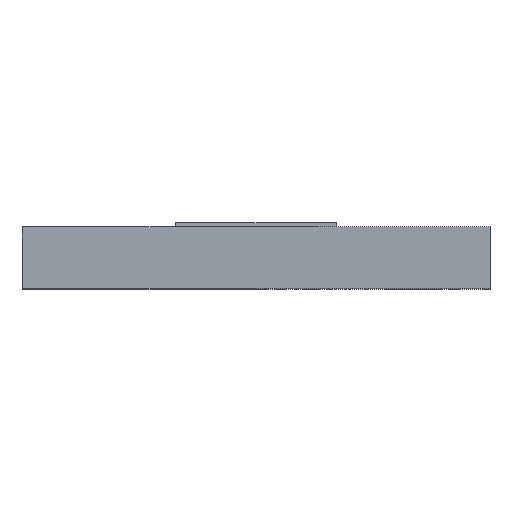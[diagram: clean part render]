
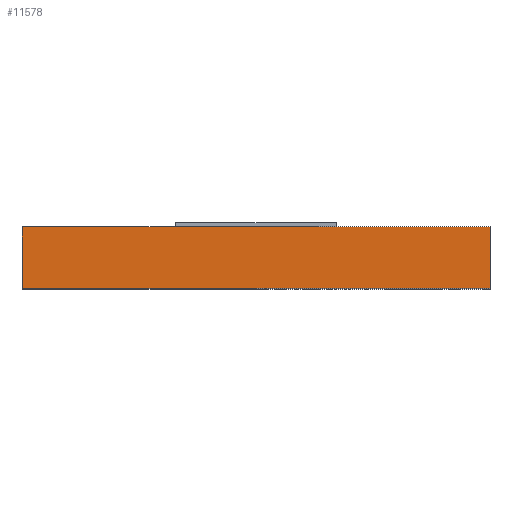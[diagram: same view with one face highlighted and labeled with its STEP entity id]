
A CAD part, top view. The second image highlights one B-rep face of the part: STEP entity #11578.
In plain terms, the highlighted planar face has unit normal (0, 0, 1).
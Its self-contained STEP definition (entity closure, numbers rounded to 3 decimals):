
#42 = VERTEX_POINT('',#43);
#43 = CARTESIAN_POINT('',(-19.,-2.5,23.));
#50 = PLANE('',#51);
#51 = AXIS2_PLACEMENT_3D('',#52,#53,#54);
#52 = CARTESIAN_POINT('',(-19.,-2.5,-23.));
#53 = DIRECTION('',(1.,0.,-0.));
#54 = DIRECTION('',(0.,0.,1.));
#62 = PLANE('',#63);
#63 = AXIS2_PLACEMENT_3D('',#64,#65,#66);
#64 = CARTESIAN_POINT('',(-19.,-2.5,-23.));
#65 = DIRECTION('',(-0.,1.,0.));
#66 = DIRECTION('',(0.,0.,1.));
#103 = VERTEX_POINT('',#104);
#104 = CARTESIAN_POINT('',(-19.,2.5,23.));
#118 = PLANE('',#119);
#119 = AXIS2_PLACEMENT_3D('',#120,#121,#122);
#120 = CARTESIAN_POINT('',(-19.,2.5,-23.));
#121 = DIRECTION('',(-0.,1.,0.));
#122 = DIRECTION('',(0.,0.,1.));
#130 = EDGE_CURVE('',#42,#103,#131,.T.);
#131 = SURFACE_CURVE('',#132,(#136,#143),.PCURVE_S1.);
#132 = LINE('',#133,#134);
#133 = CARTESIAN_POINT('',(-19.,-2.5,23.));
#134 = VECTOR('',#135,1.);
#135 = DIRECTION('',(-0.,1.,0.));
#136 = PCURVE('',#50,#137);
#137 = DEFINITIONAL_REPRESENTATION('',(#138),#142);
#138 = LINE('',#139,#140);
#139 = CARTESIAN_POINT('',(46.,0.));
#140 = VECTOR('',#141,1.);
#141 = DIRECTION('',(0.,-1.));
#142 = ( GEOMETRIC_REPRESENTATION_CONTEXT(2) 
PARAMETRIC_REPRESENTATION_CONTEXT() REPRESENTATION_CONTEXT('2D SPACE',''
  ) );
#143 = PCURVE('',#144,#149);
#144 = PLANE('',#145);
#145 = AXIS2_PLACEMENT_3D('',#146,#147,#148);
#146 = CARTESIAN_POINT('',(-19.,-2.5,23.));
#147 = DIRECTION('',(0.,0.,1.));
#148 = DIRECTION('',(1.,0.,-0.));
#149 = DEFINITIONAL_REPRESENTATION('',(#150),#154);
#150 = LINE('',#151,#152);
#151 = CARTESIAN_POINT('',(0.,0.));
#152 = VECTOR('',#153,1.);
#153 = DIRECTION('',(0.,1.));
#154 = ( GEOMETRIC_REPRESENTATION_CONTEXT(2) 
PARAMETRIC_REPRESENTATION_CONTEXT() REPRESENTATION_CONTEXT('2D SPACE',''
  ) );
#177 = PLANE('',#178);
#178 = AXIS2_PLACEMENT_3D('',#179,#180,#181);
#179 = CARTESIAN_POINT('',(19.,-2.5,-23.));
#180 = DIRECTION('',(1.,0.,-0.));
#181 = DIRECTION('',(0.,0.,1.));
#211 = EDGE_CURVE('',#42,#212,#214,.T.);
#212 = VERTEX_POINT('',#213);
#213 = CARTESIAN_POINT('',(19.,-2.5,23.));
#214 = SURFACE_CURVE('',#215,(#219,#226),.PCURVE_S1.);
#215 = LINE('',#216,#217);
#216 = CARTESIAN_POINT('',(-19.,-2.5,23.));
#217 = VECTOR('',#218,1.);
#218 = DIRECTION('',(1.,0.,-0.));
#219 = PCURVE('',#62,#220);
#220 = DEFINITIONAL_REPRESENTATION('',(#221),#225);
#221 = LINE('',#222,#223);
#222 = CARTESIAN_POINT('',(46.,0.));
#223 = VECTOR('',#224,1.);
#224 = DIRECTION('',(0.,1.));
#225 = ( GEOMETRIC_REPRESENTATION_CONTEXT(2) 
PARAMETRIC_REPRESENTATION_CONTEXT() REPRESENTATION_CONTEXT('2D SPACE',''
  ) );
#226 = PCURVE('',#144,#227);
#227 = DEFINITIONAL_REPRESENTATION('',(#228),#232);
#228 = LINE('',#229,#230);
#229 = CARTESIAN_POINT('',(0.,0.));
#230 = VECTOR('',#231,1.);
#231 = DIRECTION('',(1.,0.));
#232 = ( GEOMETRIC_REPRESENTATION_CONTEXT(2) 
PARAMETRIC_REPRESENTATION_CONTEXT() REPRESENTATION_CONTEXT('2D SPACE',''
  ) );
#11578 = ADVANCED_FACE('',(#11579),#144,.T.);
#11579 = FACE_BOUND('',#11580,.T.);
#11580 = EDGE_LOOP('',(#11581,#11582,#11583,#11606));
#11581 = ORIENTED_EDGE('',*,*,#130,.F.);
#11582 = ORIENTED_EDGE('',*,*,#211,.T.);
#11583 = ORIENTED_EDGE('',*,*,#11584,.T.);
#11584 = EDGE_CURVE('',#212,#11585,#11587,.T.);
#11585 = VERTEX_POINT('',#11586);
#11586 = CARTESIAN_POINT('',(19.,2.5,23.));
#11587 = SURFACE_CURVE('',#11588,(#11592,#11599),.PCURVE_S1.);
#11588 = LINE('',#11589,#11590);
#11589 = CARTESIAN_POINT('',(19.,-2.5,23.));
#11590 = VECTOR('',#11591,1.);
#11591 = DIRECTION('',(-0.,1.,0.));
#11592 = PCURVE('',#144,#11593);
#11593 = DEFINITIONAL_REPRESENTATION('',(#11594),#11598);
#11594 = LINE('',#11595,#11596);
#11595 = CARTESIAN_POINT('',(38.,0.));
#11596 = VECTOR('',#11597,1.);
#11597 = DIRECTION('',(0.,1.));
#11598 = ( GEOMETRIC_REPRESENTATION_CONTEXT(2) 
PARAMETRIC_REPRESENTATION_CONTEXT() REPRESENTATION_CONTEXT('2D SPACE',''
  ) );
#11599 = PCURVE('',#177,#11600);
#11600 = DEFINITIONAL_REPRESENTATION('',(#11601),#11605);
#11601 = LINE('',#11602,#11603);
#11602 = CARTESIAN_POINT('',(46.,0.));
#11603 = VECTOR('',#11604,1.);
#11604 = DIRECTION('',(0.,-1.));
#11605 = ( GEOMETRIC_REPRESENTATION_CONTEXT(2) 
PARAMETRIC_REPRESENTATION_CONTEXT() REPRESENTATION_CONTEXT('2D SPACE',''
  ) );
#11606 = ORIENTED_EDGE('',*,*,#11607,.F.);
#11607 = EDGE_CURVE('',#103,#11585,#11608,.T.);
#11608 = SURFACE_CURVE('',#11609,(#11613,#11620),.PCURVE_S1.);
#11609 = LINE('',#11610,#11611);
#11610 = CARTESIAN_POINT('',(-19.,2.5,23.));
#11611 = VECTOR('',#11612,1.);
#11612 = DIRECTION('',(1.,0.,-0.));
#11613 = PCURVE('',#144,#11614);
#11614 = DEFINITIONAL_REPRESENTATION('',(#11615),#11619);
#11615 = LINE('',#11616,#11617);
#11616 = CARTESIAN_POINT('',(0.,5.));
#11617 = VECTOR('',#11618,1.);
#11618 = DIRECTION('',(1.,0.));
#11619 = ( GEOMETRIC_REPRESENTATION_CONTEXT(2) 
PARAMETRIC_REPRESENTATION_CONTEXT() REPRESENTATION_CONTEXT('2D SPACE',''
  ) );
#11620 = PCURVE('',#118,#11621);
#11621 = DEFINITIONAL_REPRESENTATION('',(#11622),#11626);
#11622 = LINE('',#11623,#11624);
#11623 = CARTESIAN_POINT('',(46.,0.));
#11624 = VECTOR('',#11625,1.);
#11625 = DIRECTION('',(0.,1.));
#11626 = ( GEOMETRIC_REPRESENTATION_CONTEXT(2) 
PARAMETRIC_REPRESENTATION_CONTEXT() REPRESENTATION_CONTEXT('2D SPACE',''
  ) );
